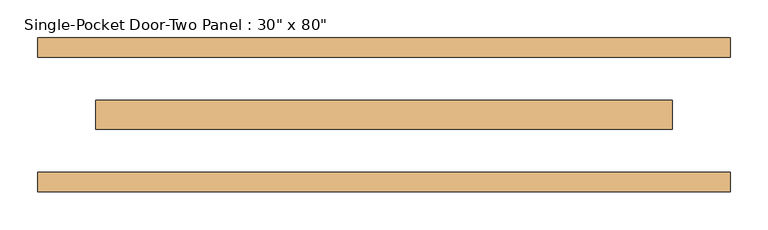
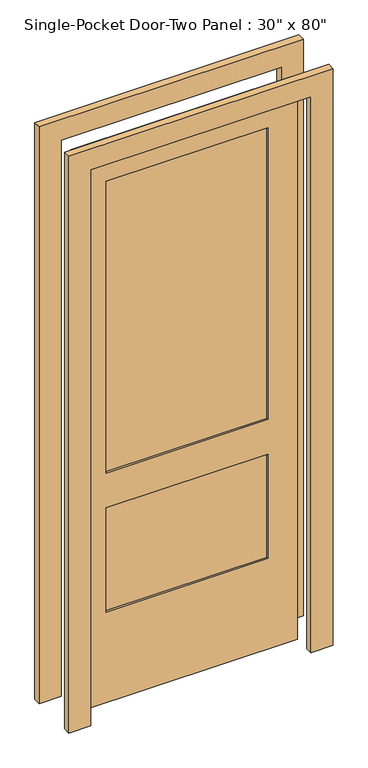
"""IFC4 building model written with IfcOpenShell, lengths in millimetres: door geometry."""

from ifc_helpers import new_model, si_unit, frame, origin, place, context, project, spatial, polyline, outline, extrude, source, transform, mapped, element, save


def door_421592a3(model_context):
    return source(origin(), model_context, "Body", "SweptSolid", [
        extrude(outline(polyline([(-279.4, -12.7), (-279.4, 12.7), (279.4, 12.7), (279.4, -12.7), (-279.4, -12.7)])), frame((0.0, 0.0, 838.2), z_axis=(0.0, 0.0, 1.0), x_axis=(1.0, 0.0, 0.0)), (0.0, 0.0, 1.0), 1066.8),
        extrude(outline(polyline([(-279.4, -12.7), (-279.4, 12.7), (279.4, 12.7), (279.4, -12.7), (-279.4, -12.7)])), frame((0.0, 0.0, 330.2), z_axis=(0.0, 0.0, 1.0), x_axis=(1.0, 0.0, 0.0)), (0.0, 0.0, 1.0), 381.0),
        extrude(outline(polyline([(2032.0, -381.0), (0.0, -381.0), (0.0, 381.0), (2032.0, 381.0), (2032.0, -381.0)]), holes=[polyline([(711.2, -279.4), (711.2, 279.4), (330.2, 279.4), (330.2, -279.4), (711.2, -279.4)]), polyline([(1905.0, -279.4), (1905.0, 279.4), (838.2, 279.4), (838.2, -279.4), (1905.0, -279.4)])]), frame((0.0, -19.05, 0.0), z_axis=(0.0, 1.0, 0.0), x_axis=(0.0, 0.0, 1.0)), (0.0, 0.0, 1.0), 38.1),
        extrude(outline(polyline([(2032.0, -381.0), (2032.0, 381.0), (0.0, 381.0), (0.0, 457.2), (2108.2, 457.2), (2108.2, -457.2), (0.0, -457.2), (0.0, -381.0), (2032.0, -381.0)])), frame((0.0, 76.2, 0.0), z_axis=(0.0, 1.0, 0.0), x_axis=(0.0, 0.0, 1.0)), (0.0, 0.0, 1.0), 25.4),
        extrude(outline(polyline([(2032.0, -381.0), (2032.0, 381.0), (0.0, 381.0), (0.0, 457.2), (2108.2, 457.2), (2108.2, -457.2), (0.0, -457.2), (0.0, -381.0), (2032.0, -381.0)])), frame((0.0, -101.6, 0.0), z_axis=(0.0, 1.0, 0.0), x_axis=(0.0, 0.0, 1.0)), (0.0, 0.0, 1.0), 25.4),
    ])


if __name__ == "__main__":
    model = new_model("IFC4")
    model_context = context("Model", 3, world=origin())
    ifc_project = project(units=[si_unit("LENGTHUNIT", "METRE", prefix="MILLI")], contexts=[model_context])
    site = spatial("IfcSite", under=ifc_project)
    building = spatial("IfcBuilding", under=site)
    placement = place(None, origin())
    door_shape = door_421592a3(model_context)
    element("IfcDoor", 1, ObjectType="Single-Pocket Door-Two Panel : 30\" x 80\"", at=placement, inside=building, context=model_context, shape_type="MappedRepresentation", body=[
        mapped(door_shape, transform((0.0, 0.0, 0.0), x_axis=(1.0, 0.0, 0.0), y_axis=(0.0, 1.0, 0.0), z_axis=(0.0, 0.0, 1.0))),
    ])
    save(model, "model.ifc")
